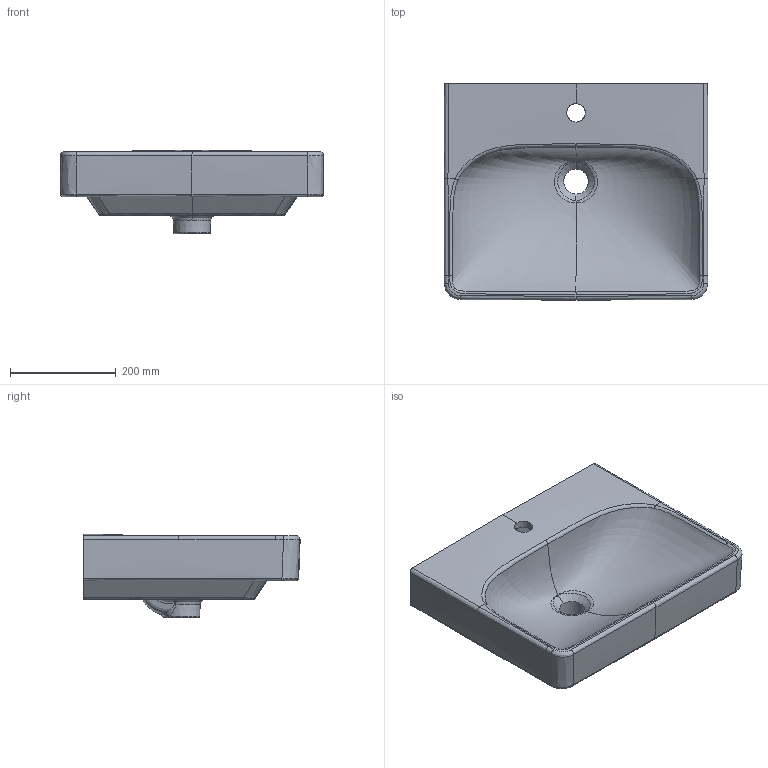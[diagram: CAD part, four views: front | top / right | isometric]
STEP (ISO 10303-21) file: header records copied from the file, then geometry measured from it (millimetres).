
FILE_DESCRIPTION(/* description */ (' PTC IGES file: 0106A.igs '),/* implementation_level */ '2;1');
FILE_NAME(/* name */ 'C:\Planerdaten\Export PLA\500.256.01.1\stp\500256.stp',/* time_stamp */ '2020-04-30T09:20:05+02:00',/* author */ ('JANAN'),/* organization */ ('Unknown'),/* preprocessor_version */ 'ST-DEVELOPER v16.13',/* originating_system */ 'Autodesk Inventor 2018',/* authorisation */ '');
FILE_SCHEMA (('AUTOMOTIVE_DESIGN { 1 0 10303 214 3 1 1 }'));
Products named in the file (1): HWB Ge+SmyS B50 m/ÜLF m/HLo
Bounding box: 499.98 x 409.82 x 158 mm (x, y, z)
Volume: 10365269.9 mm3; surface area: 707859.1 mm2
Topology: 1 solids, 1 shells, 321 faces, 774 edges, 452 vertices
Faces by surface type: bspline 241, cylinder 37, plane 31, sphere 9, torus 2, cone 1
Full cylindrical faces by diameter (mm): 35 x1, 47 x1
Entity records: 67103 total; most frequent: CARTESIAN_POINT 60781, ORIENTED_EDGE 1538, DIRECTION 864, EDGE_CURVE 769, VERTEX_POINT 450, AXIS2_PLACEMENT_3D 387, B_SPLINE_CURVE_WITH_KNOTS 371, EDGE_LOOP 329
